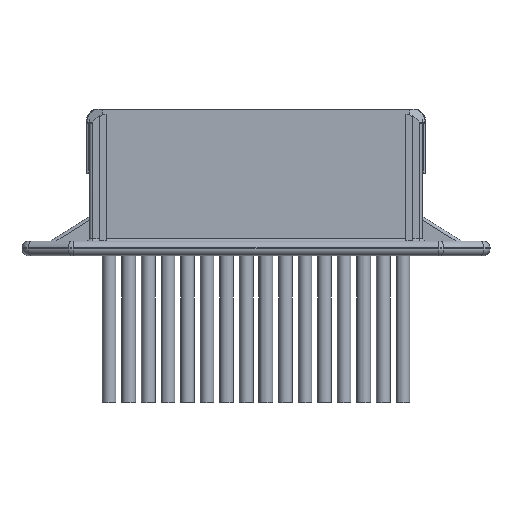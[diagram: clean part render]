
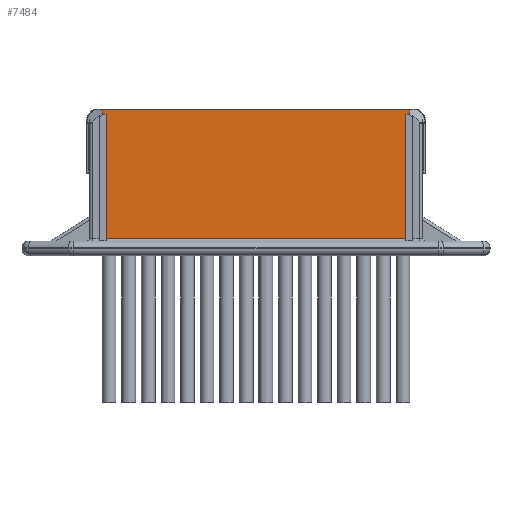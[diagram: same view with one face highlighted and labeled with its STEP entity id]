
A CAD part, front view. The second image highlights one B-rep face of the part: STEP entity #7484.
In plain terms, the highlighted planar face has unit normal (0, -1, 0).
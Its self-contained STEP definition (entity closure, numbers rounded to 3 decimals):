
#67 = CARTESIAN_POINT ( 'NONE',  ( -15.69, 0., 0. ) ) ;
#82 = EDGE_CURVE ( 'NONE', #6622, #8563, #6056, .T. ) ;
#321 = CARTESIAN_POINT ( 'NONE',  ( -15.69, 0., -0.292 ) ) ;
#630 = DIRECTION ( 'NONE',  ( 1., 0., 0. ) ) ;
#700 = CARTESIAN_POINT ( 'NONE',  ( -15.69, 0., 0. ) ) ;
#759 = EDGE_LOOP ( 'NONE', ( #1874, #7997, #3761, #7488, #8768, #8321, #4734, #2218, #5511, #6599 ) ) ;
#858 = VERTEX_POINT ( 'NONE', #7641 ) ;
#1127 = VERTEX_POINT ( 'NONE', #700 ) ;
#1282 = LINE ( 'NONE', #67, #7219 ) ;
#1407 = EDGE_CURVE ( 'NONE', #6058, #10395, #3961, .T. ) ;
#1441 = DIRECTION ( 'NONE',  ( 1., 0., 0. ) ) ;
#1867 = DIRECTION ( 'NONE',  ( 0., 0., 1. ) ) ;
#1874 = ORIENTED_EDGE ( 'NONE', *, *, #11512, .T. ) ;
#1947 = VECTOR ( 'NONE', #630, 1000. ) ;
#2205 = CARTESIAN_POINT ( 'NONE',  ( -15.3, 0., -0.5 ) ) ;
#2218 = ORIENTED_EDGE ( 'NONE', *, *, #1407, .F. ) ;
#2482 = DIRECTION ( 'NONE',  ( 0., 0., -1. ) ) ;
#2644 = DIRECTION ( 'NONE',  ( 1., 0., 0. ) ) ;
#2940 = LINE ( 'NONE', #7305, #8436 ) ;
#3047 = CARTESIAN_POINT ( 'NONE',  ( 15.3, 0., -0.5 ) ) ;
#3252 = CARTESIAN_POINT ( 'NONE',  ( 15.3, 0., -13.15 ) ) ;
#3625 = VECTOR ( 'NONE', #10028, 1000. ) ;
#3630 = EDGE_CURVE ( 'NONE', #3841, #9911, #5732, .T. ) ;
#3678 = EDGE_CURVE ( 'NONE', #6988, #858, #4861, .T. ) ;
#3726 = CARTESIAN_POINT ( 'NONE',  ( -15.69, 0., 0. ) ) ;
#3761 = ORIENTED_EDGE ( 'NONE', *, *, #8446, .F. ) ;
#3841 = VERTEX_POINT ( 'NONE', #3047 ) ;
#3915 = DIRECTION ( 'NONE',  ( 0., 0., -1. ) ) ;
#3961 = LINE ( 'NONE', #10592, #11299 ) ;
#4037 = VECTOR ( 'NONE', #2644, 1000. ) ;
#4179 = DIRECTION ( 'NONE',  ( -1., 0., 0. ) ) ;
#4518 = AXIS2_PLACEMENT_3D ( 'NONE', #13698, #11622, #3915 ) ;
#4734 = ORIENTED_EDGE ( 'NONE', *, *, #7214, .T. ) ;
#4861 = LINE ( 'NONE', #8936, #12030 ) ;
#5458 = LINE ( 'NONE', #9806, #3625 ) ;
#5511 = ORIENTED_EDGE ( 'NONE', *, *, #10034, .F. ) ;
#5732 = LINE ( 'NONE', #11148, #4037 ) ;
#6056 = LINE ( 'NONE', #10400, #1947 ) ;
#6058 = VERTEX_POINT ( 'NONE', #2205 ) ;
#6183 = CARTESIAN_POINT ( 'NONE',  ( -15.3, 0., -13.15 ) ) ;
#6345 = PLANE ( 'NONE',  #4518 ) ;
#6495 = DIRECTION ( 'NONE',  ( 0., 0., -1. ) ) ;
#6599 = ORIENTED_EDGE ( 'NONE', *, *, #82, .T. ) ;
#6622 = VERTEX_POINT ( 'NONE', #6183 ) ;
#6943 = LINE ( 'NONE', #3726, #7018 ) ;
#6988 = VERTEX_POINT ( 'NONE', #12781 ) ;
#7018 = VECTOR ( 'NONE', #1441, 1000. ) ;
#7214 = EDGE_CURVE ( 'NONE', #9595, #10395, #1282, .T. ) ;
#7219 = VECTOR ( 'NONE', #6495, 1000. ) ;
#7305 = CARTESIAN_POINT ( 'NONE',  ( 15.3, 0., -14.95 ) ) ;
#7484 = ADVANCED_FACE ( 'NONE', ( #9540 ), #6345, .T. ) ;
#7488 = ORIENTED_EDGE ( 'NONE', *, *, #3678, .F. ) ;
#7641 = CARTESIAN_POINT ( 'NONE',  ( 15.69, 0., -0.292 ) ) ;
#7668 = CARTESIAN_POINT ( 'NONE',  ( 15.69, 0., -0.5 ) ) ;
#7851 = DIRECTION ( 'NONE',  ( 0., 0., -1. ) ) ;
#7997 = ORIENTED_EDGE ( 'NONE', *, *, #3630, .T. ) ;
#8321 = ORIENTED_EDGE ( 'NONE', *, *, #11311, .T. ) ;
#8436 = VECTOR ( 'NONE', #1867, 1000. ) ;
#8446 = EDGE_CURVE ( 'NONE', #858, #9911, #12886, .T. ) ;
#8527 = DIRECTION ( 'NONE',  ( 0., 0., -1. ) ) ;
#8563 = VERTEX_POINT ( 'NONE', #3252 ) ;
#8768 = ORIENTED_EDGE ( 'NONE', *, *, #13994, .F. ) ;
#8846 = VECTOR ( 'NONE', #8527, 1000. ) ;
#8936 = CARTESIAN_POINT ( 'NONE',  ( 15.69, 0., 0. ) ) ;
#9540 = FACE_OUTER_BOUND ( 'NONE', #759, .T. ) ;
#9595 = VERTEX_POINT ( 'NONE', #321 ) ;
#9806 = CARTESIAN_POINT ( 'NONE',  ( -15.3, 0., -14.95 ) ) ;
#9911 = VERTEX_POINT ( 'NONE', #7668 ) ;
#9966 = LINE ( 'NONE', #11505, #11174 ) ;
#10028 = DIRECTION ( 'NONE',  ( 0., 0., 1. ) ) ;
#10034 = EDGE_CURVE ( 'NONE', #6622, #6058, #5458, .T. ) ;
#10395 = VERTEX_POINT ( 'NONE', #13228 ) ;
#10400 = CARTESIAN_POINT ( 'NONE',  ( 0., 0., -13.15 ) ) ;
#10592 = CARTESIAN_POINT ( 'NONE',  ( -15.69, 0., -0.5 ) ) ;
#11148 = CARTESIAN_POINT ( 'NONE',  ( 15.69, 0., -0.5 ) ) ;
#11174 = VECTOR ( 'NONE', #2482, 1000. ) ;
#11299 = VECTOR ( 'NONE', #4179, 1000. ) ;
#11311 = EDGE_CURVE ( 'NONE', #1127, #9595, #9966, .T. ) ;
#11505 = CARTESIAN_POINT ( 'NONE',  ( -15.69, 0., 0. ) ) ;
#11512 = EDGE_CURVE ( 'NONE', #8563, #3841, #2940, .T. ) ;
#11622 = DIRECTION ( 'NONE',  ( 0., -1., 0. ) ) ;
#12030 = VECTOR ( 'NONE', #7851, 1000. ) ;
#12781 = CARTESIAN_POINT ( 'NONE',  ( 15.69, 0., 0. ) ) ;
#12886 = LINE ( 'NONE', #13960, #8846 ) ;
#13228 = CARTESIAN_POINT ( 'NONE',  ( -15.69, 0., -0.5 ) ) ;
#13698 = CARTESIAN_POINT ( 'NONE',  ( 17., 0., -14.95 ) ) ;
#13960 = CARTESIAN_POINT ( 'NONE',  ( 15.69, 0., 0. ) ) ;
#13994 = EDGE_CURVE ( 'NONE', #1127, #6988, #6943, .T. ) ;
